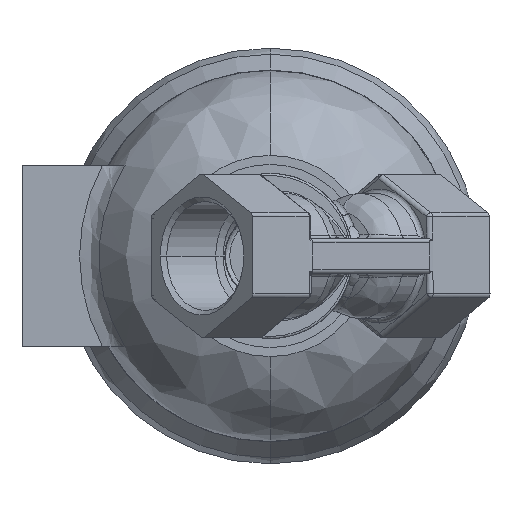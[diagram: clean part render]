
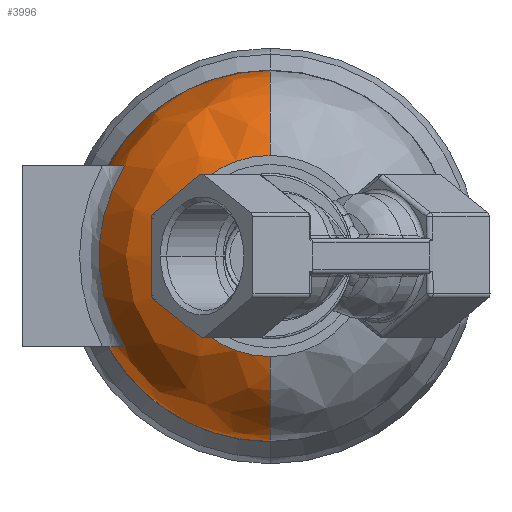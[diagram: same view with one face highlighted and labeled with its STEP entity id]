
A CAD part, front view. The second image highlights one B-rep face of the part: STEP entity #3996.
In plain terms, the highlighted free-form (B-spline) face has degree [3, 3] with [4, 4] control points.
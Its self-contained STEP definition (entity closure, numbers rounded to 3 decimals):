
#120 = CARTESIAN_POINT ( 'NONE',  ( 0., -30.5, 41.5 ) ) ;
#190 = EDGE_CURVE ( 'NONE', #2539, #16966, #2412, .T. ) ;
#359 = CARTESIAN_POINT ( 'NONE',  ( -35.897, -34.374, -20.25 ) ) ;
#404 = CARTESIAN_POINT ( 'NONE',  ( -36.224, -31.618, 20.25 ) ) ;
#996 = AXIS2_PLACEMENT_3D ( 'NONE', #13400, #5590, #14720 ) ;
#1076 = CARTESIAN_POINT ( 'NONE',  ( -36.142, -32.722, 20.25 ) ) ;
#1231 = CARTESIAN_POINT ( 'NONE',  ( 0., -30.5, 0. ) ) ;
#1321 = EDGE_CURVE ( 'NONE', #16966, #14305, #12671, .T. ) ;
#1326 = CARTESIAN_POINT ( 'NONE',  ( -33.6, -41.169, 20.25 ) ) ;
#1385 = CARTESIAN_POINT ( 'NONE',  ( 0., -55.5, 22.5 ) ) ;
#1403 = CIRCLE ( 'NONE', #9088, 41.5 ) ;
#1429 = EDGE_CURVE ( 'NONE', #14305, #10838, #11734, .T. ) ;
#1449 = CARTESIAN_POINT ( 'NONE',  ( -83., -30.5, -41.5 ) ) ;
#1537 = EDGE_CURVE ( 'NONE', #14742, #10838, #12061, .T. ) ;
#1695 = EDGE_CURVE ( 'NONE', #11976, #14742, #7399, .T. ) ;
#1697 = CARTESIAN_POINT ( 'NONE',  ( -36.224, -31.618, -20.25 ) ) ;
#1716 = DIRECTION ( 'NONE',  ( 0., 0., -1. ) ) ;
#1773 = DIRECTION ( 'NONE',  ( 1., 0., 0. ) ) ;
#1789 = CARTESIAN_POINT ( 'NONE',  ( 0., -30.5, -15.553 ) ) ;
#1988 = EDGE_CURVE ( 'NONE', #11207, #10321, #15637, .T. ) ;
#2179 = CARTESIAN_POINT ( 'NONE',  ( -33.059, -42.14, 20.25 ) ) ;
#2412 = B_SPLINE_CURVE_WITH_KNOTS ( 'NONE', 3,
 ( #4119, #404, #1076, #16954, #10301, #11004, #8565, #3492, #6764, #1326, #2179, #14609 ),
 .UNSPECIFIED., .F., .F.,
 ( 4, 2, 2, 2, 2, 4 ),
 ( 0., 0.003, 0.007, 0.008, 0.01, 0.013 ),
 .UNSPECIFIED. ) ;
#2421 = ORIENTED_EDGE ( 'NONE', *, *, #7963, .T. ) ;
#2539 = VERTEX_POINT ( 'NONE', #9297 ) ;
#2565 = DIRECTION ( 'NONE',  ( 0., 0., -1. ) ) ;
#2721 = CARTESIAN_POINT ( 'NONE',  ( 0., -55.5, -22.5 ) ) ;
#2945 = CARTESIAN_POINT ( 'NONE',  ( -32.448, -43.076, -20.25 ) ) ;
#3492 = CARTESIAN_POINT ( 'NONE',  ( -34.522, -39.148, 20.25 ) ) ;
#3652 = CARTESIAN_POINT ( 'NONE',  ( 0., -30.5, -41.5 ) ) ;
#3942 = CARTESIAN_POINT ( 'NONE',  ( -36.224, -30.5, -20.25 ) ) ;
#3996 = ADVANCED_FACE ( 'NONE', ( #4540 ), #7175, .T. ) ;
#4025 = CARTESIAN_POINT ( 'NONE',  ( -68.341, -52.257, 34.171 ) ) ;
#4119 = CARTESIAN_POINT ( 'NONE',  ( -36.224, -30.5, 20.25 ) ) ;
#4540 = FACE_OUTER_BOUND ( 'NONE', #10674, .T. ) ;
#4754 = DIRECTION ( 'NONE',  ( 0., 1., 0. ) ) ;
#5057 = ORIENTED_EDGE ( 'NONE', *, *, #13724, .F. ) ;
#5197 = ORIENTED_EDGE ( 'NONE', *, *, #1695, .F. ) ;
#5357 = CARTESIAN_POINT ( 'NONE',  ( 0., -52.257, -34.171 ) ) ;
#5590 = DIRECTION ( 'NONE',  ( 0., -1., 0. ) ) ;
#5609 = DIRECTION ( 'NONE',  ( 0., 0., -1. ) ) ;
#5624 = DIRECTION ( 'NONE',  ( 0., 1., 0. ) ) ;
#5667 = CARTESIAN_POINT ( 'NONE',  ( 0., -30.5, 0. ) ) ;
#5719 = CIRCLE ( 'NONE', #15540, 22.5 ) ;
#6346 = AXIS2_PLACEMENT_3D ( 'NONE', #1789, #1773, #1716 ) ;
#6385 = ORIENTED_EDGE ( 'NONE', *, *, #1988, .T. ) ;
#6639 = CARTESIAN_POINT ( 'NONE',  ( 0., -55.5, 22.5 ) ) ;
#6677 = CARTESIAN_POINT ( 'NONE',  ( -83., -42.613, 41.5 ) ) ;
#6704 = CARTESIAN_POINT ( 'NONE',  ( -36.224, -30.5, -20.25 ) ) ;
#6742 = CARTESIAN_POINT ( 'NONE',  ( -35.796, -34.92, -20.25 ) ) ;
#6760 = CARTESIAN_POINT ( 'NONE',  ( -35.552, -36.009, -20.25 ) ) ;
#6764 = CARTESIAN_POINT ( 'NONE',  ( -34.305, -39.66, 20.25 ) ) ;
#6782 = CARTESIAN_POINT ( 'NONE',  ( -35.409, -36.55, -20.25 ) ) ;
#6800 = CARTESIAN_POINT ( 'NONE',  ( -34.927, -38.144, -20.25 ) ) ;
#6820 = CARTESIAN_POINT ( 'NONE',  ( -34.532, -39.175, -20.25 ) ) ;
#6873 = CARTESIAN_POINT ( 'NONE',  ( -33.598, -41.173, -20.25 ) ) ;
#6990 = CARTESIAN_POINT ( 'NONE',  ( -32.448, -43.076, -20.25 ) ) ;
#7008 = CARTESIAN_POINT ( 'NONE',  ( -33.059, -42.141, -20.25 ) ) ;
#7109 = CARTESIAN_POINT ( 'NONE',  ( -32.448, -43.076, 20.25 ) ) ;
#7175 =( BOUNDED_SURFACE ( )  B_SPLINE_SURFACE ( 3, 3, ( 
 ( #1385, #14308, #10566, #2721 ),
 ( #11848, #4025, #13170, #5357 ),
 ( #14480, #6677, #15818, #7990 ),
 ( #120, #9315, #1449, #10620 ) ),
 .UNSPECIFIED., .F., .F., .F. ) 
 B_SPLINE_SURFACE_WITH_KNOTS ( ( 4, 4 ),
 ( 4, 4 ),
 ( 0., 1. ),
 ( 0., 1. ),
 .UNSPECIFIED. ) 
 GEOMETRIC_REPRESENTATION_ITEM ( )  RATIONAL_B_SPLINE_SURFACE ( (
 ( 1., 0.333, 0.333, 1.),
 ( 0.864, 0.288, 0.288, 0.864),
 ( 0.864, 0.288, 0.288, 0.864),
 ( 1., 0.333, 0.333, 1.) ) ) 
 REPRESENTATION_ITEM ( '' )  SURFACE ( )  );
#7399 = CIRCLE ( 'NONE', #6346, 25.947 ) ;
#7963 = EDGE_CURVE ( 'NONE', #11976, #11207, #5719, .T. ) ;
#7990 = CARTESIAN_POINT ( 'NONE',  ( 0., -42.613, -41.5 ) ) ;
#8565 = CARTESIAN_POINT ( 'NONE',  ( -34.92, -38.106, 20.25 ) ) ;
#9088 = AXIS2_PLACEMENT_3D ( 'NONE', #1231, #10417, #2565 ) ;
#9297 = CARTESIAN_POINT ( 'NONE',  ( -36.224, -30.5, 20.25 ) ) ;
#9315 = CARTESIAN_POINT ( 'NONE',  ( -83., -30.5, 41.5 ) ) ;
#9546 = CARTESIAN_POINT ( 'NONE',  ( -36.142, -32.726, -20.25 ) ) ;
#9611 = CARTESIAN_POINT ( 'NONE',  ( 0., -30.5, 41.5 ) ) ;
#9713 = AXIS2_PLACEMENT_3D ( 'NONE', #11254, #16390, #16497 ) ;
#10301 = CARTESIAN_POINT ( 'NONE',  ( -35.58, -35.981, 20.25 ) ) ;
#10321 = VERTEX_POINT ( 'NONE', #9611 ) ;
#10417 = DIRECTION ( 'NONE',  ( 0., 1., 0. ) ) ;
#10566 = CARTESIAN_POINT ( 'NONE',  ( -45., -55.5, -22.5 ) ) ;
#10620 = CARTESIAN_POINT ( 'NONE',  ( 0., -30.5, -41.5 ) ) ;
#10674 = EDGE_LOOP ( 'NONE', ( #2421, #6385, #5057, #15617, #12063, #16774, #10980, #5197 ) ) ;
#10838 = VERTEX_POINT ( 'NONE', #3942 ) ;
#10980 = ORIENTED_EDGE ( 'NONE', *, *, #1537, .F. ) ;
#11004 = CARTESIAN_POINT ( 'NONE',  ( -35.1, -37.576, 20.25 ) ) ;
#11207 = VERTEX_POINT ( 'NONE', #6639 ) ;
#11254 = CARTESIAN_POINT ( 'NONE',  ( 0., -30.5, 15.553 ) ) ;
#11734 = B_SPLINE_CURVE_WITH_KNOTS ( 'NONE', 3,
 ( #6990, #7008, #6873, #6820, #6800, #6782, #6760, #6742, #359, #9546, #1697, #6704 ),
 .UNSPECIFIED., .F., .F.,
 ( 4, 2, 2, 2, 2, 4 ),
 ( 0., 0.003, 0.007, 0.008, 0.01, 0.013 ),
 .UNSPECIFIED. ) ;
#11848 = CARTESIAN_POINT ( 'NONE',  ( 0., -52.257, 34.171 ) ) ;
#11976 = VERTEX_POINT ( 'NONE', #12490 ) ;
#12061 = CIRCLE ( 'NONE', #12103, 41.5 ) ;
#12063 = ORIENTED_EDGE ( 'NONE', *, *, #1321, .T. ) ;
#12103 = AXIS2_PLACEMENT_3D ( 'NONE', #5667, #5624, #5609 ) ;
#12490 = CARTESIAN_POINT ( 'NONE',  ( 0., -55.5, -22.5 ) ) ;
#12584 = CARTESIAN_POINT ( 'NONE',  ( 0., -55.5, 0. ) ) ;
#12671 = CIRCLE ( 'NONE', #996, 38.248 ) ;
#13170 = CARTESIAN_POINT ( 'NONE',  ( -68.341, -52.257, -34.171 ) ) ;
#13400 = CARTESIAN_POINT ( 'NONE',  ( 0., -43.076, 0. ) ) ;
#13724 = EDGE_CURVE ( 'NONE', #2539, #10321, #1403, .T. ) ;
#13887 = DIRECTION ( 'NONE',  ( 0., 0., -1. ) ) ;
#14305 = VERTEX_POINT ( 'NONE', #2945 ) ;
#14308 = CARTESIAN_POINT ( 'NONE',  ( -45., -55.5, 22.5 ) ) ;
#14480 = CARTESIAN_POINT ( 'NONE',  ( 0., -42.613, 41.5 ) ) ;
#14609 = CARTESIAN_POINT ( 'NONE',  ( -32.448, -43.076, 20.25 ) ) ;
#14720 = DIRECTION ( 'NONE',  ( 0., 0., -1. ) ) ;
#14742 = VERTEX_POINT ( 'NONE', #3652 ) ;
#15540 = AXIS2_PLACEMENT_3D ( 'NONE', #12584, #4754, #13887 ) ;
#15617 = ORIENTED_EDGE ( 'NONE', *, *, #190, .T. ) ;
#15637 = CIRCLE ( 'NONE', #9713, 25.947 ) ;
#15818 = CARTESIAN_POINT ( 'NONE',  ( -83., -42.613, -41.5 ) ) ;
#16390 = DIRECTION ( 'NONE',  ( -1., 0., 0. ) ) ;
#16497 = DIRECTION ( 'NONE',  ( 0., 0., 1. ) ) ;
#16774 = ORIENTED_EDGE ( 'NONE', *, *, #1429, .T. ) ;
#16954 = CARTESIAN_POINT ( 'NONE',  ( -35.819, -34.904, 20.25 ) ) ;
#16966 = VERTEX_POINT ( 'NONE', #7109 ) ;
